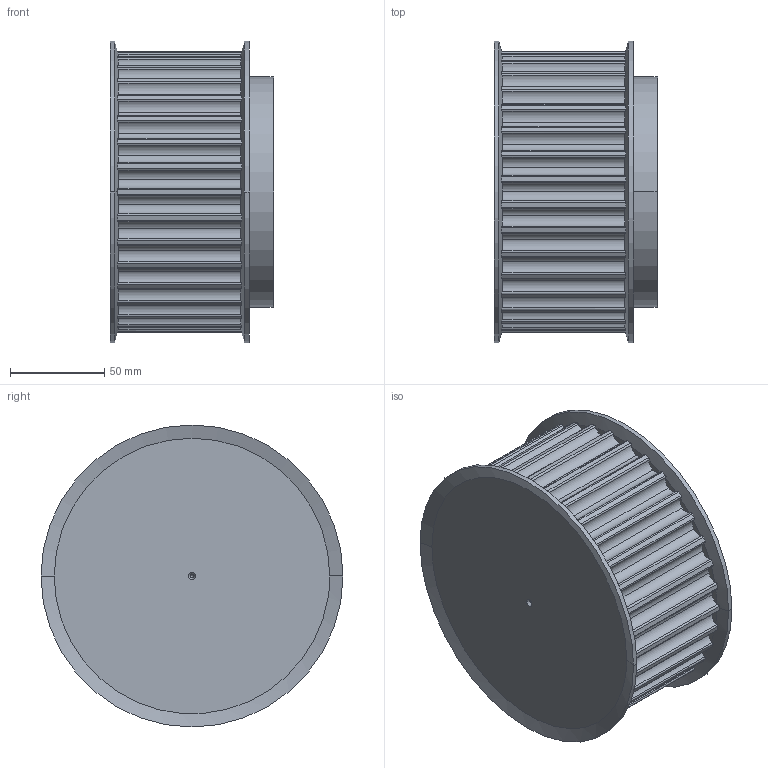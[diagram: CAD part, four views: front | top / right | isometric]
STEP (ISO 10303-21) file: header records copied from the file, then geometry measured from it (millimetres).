
FILE_DESCRIPTION(('STEP AP214'),'1');
FILE_NAME('34_-_14_m_55.stp','2018-05-14T16:07:44',('TraceParts'),('TraceParts S.A.'),'Spatial InterOp 3D',' ',' ');
FILE_SCHEMA(('automotive_design'));
Length unit declared in the file: millimetre
Products named in the file (1): 34_-_14_m_55
Bounding box: 86.88 x 160 x 160 mm (x, y, z)
Volume: 1329191.4 mm3; surface area: 96285 mm2
Topology: 1 solids, 1 shells, 269 faces, 784 edges, 516 vertices
Faces by surface type: cylinder 180, plane 71, cone 18
Entity records: 10071 total; most frequent: CARTESIAN_POINT 3198, ORIENTED_EDGE 1560, DIRECTION 1358, EDGE_CURVE 780, AXIS2_PLACEMENT_3D 580, VERTEX_POINT 516, CIRCLE 310, EDGE_LOOP 272
